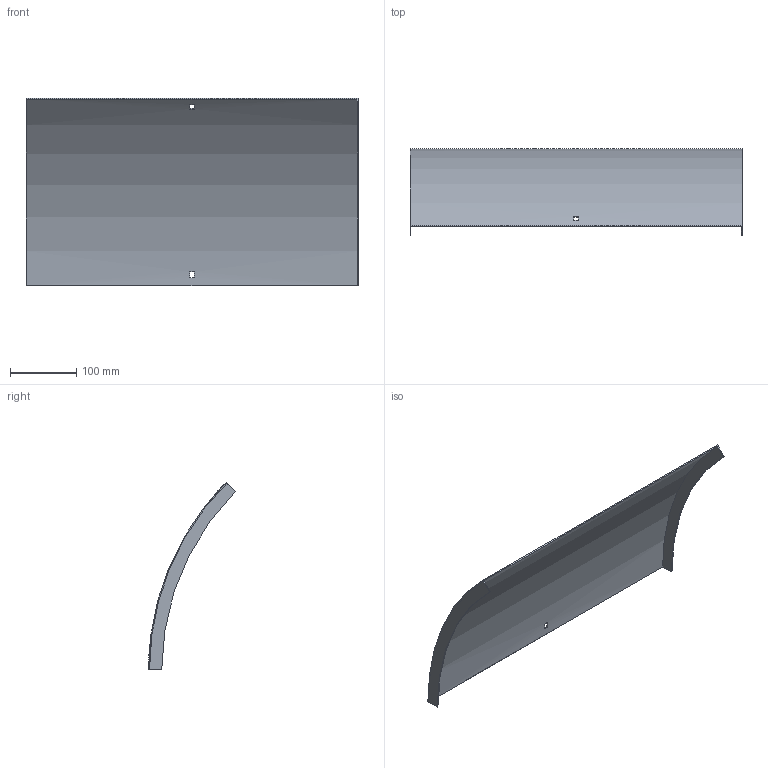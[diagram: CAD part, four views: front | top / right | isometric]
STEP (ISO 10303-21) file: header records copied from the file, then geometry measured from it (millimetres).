
FILE_DESCRIPTION (( 'STEP AP214' ), '1' );
FILE_NAME ('B2_34N3D500.step', '2025-02-21T10:36:34', ( '' ), ( '' ), 'SwSTEP 2.0', 'SolidWorks 2023', '' );
FILE_SCHEMA (( 'AUTOMOTIVE_DESIGN' ));
Length unit declared in the file: millimetre
Products named in the file (1): B2_34N3D500
Bounding box: 503 x 131.74 x 283.9 mm (x, y, z)
Volume: 254334.6 mm3; surface area: 341726.5 mm2
Topology: 1 solids, 1 shells, 18 faces, 48 edges, 32 vertices
Faces by surface type: plane 14, cylinder 4
Entity records: 599 total; most frequent: DIRECTION 102, CARTESIAN_POINT 99, ORIENTED_EDGE 96, EDGE_CURVE 48, AXIS2_PLACEMENT_3D 35, LINE 32, VECTOR 32, VERTEX_POINT 32
